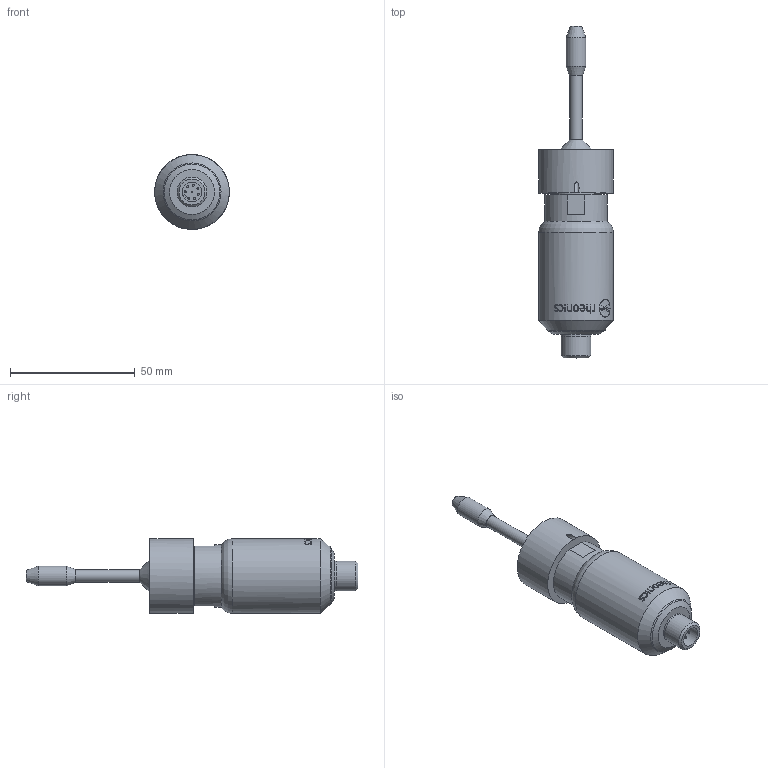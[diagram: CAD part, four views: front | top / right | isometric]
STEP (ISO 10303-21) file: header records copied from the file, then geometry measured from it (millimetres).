
FILE_DESCRIPTION(/* description */ ('Unknown'),/* implementation_level */ '2;1');
FILE_NAME(/* name */ 'SRV-X1-12G_HAW-12G-OTK',/* time_stamp */ '2024-06-07T11:28:16-05:00',/* author */ ('Unknown'),/* organization */ ('Unknown'),/* preprocessor_version */ 'ST-DEVELOPER v16.7',/* originating_system */ 'Solid Edge',/* authorisation */ 'Unknown');
FILE_SCHEMA (('AUTOMOTIVE_DESIGN {1 0 10303 214 3 1 1}'));
Length unit declared in the file: millimetre
Products named in the file (4): SRV-X1-12G_HAW-12G-OTK; SRV-X1-12G; HAW-12G-OTK; G0.5-Oring
Assembly tree (3 placements, depth 2):
  SRV-X1-12G_HAW-12G-OTK
    SRV-X1-12G
    HAW-12G-OTK
    G0.5-Oring
Bounding box: 30 x 133.13 x 30 mm (x, y, z)
Volume: 50611.6 mm3; surface area: 12814.4 mm2
Topology: 3 solids, 3 shells, 187 faces, 482 edges, 309 vertices
Faces by surface type: bspline 74, plane 42, cylinder 41, cone 16, sphere 8, torus 6
Full cylindrical faces by diameter (mm): 0.8 x8, 2 x1, 5.019 x1, 8 x2, 12 x2, 13.9 x1, 18 x1, 18.631 x1, 20.955 x1, 22 x1, 25 x1, 30 x2
Entity records: 10136 total; most frequent: CARTESIAN_POINT 5117, ORIENTED_EDGE 790, DIRECTION 537, EDGE_CURVE 395, VERTEX_POINT 282, FACE_BOUND 259, EDGE_LOOP 258, AXIS2_PLACEMENT_3D 203
